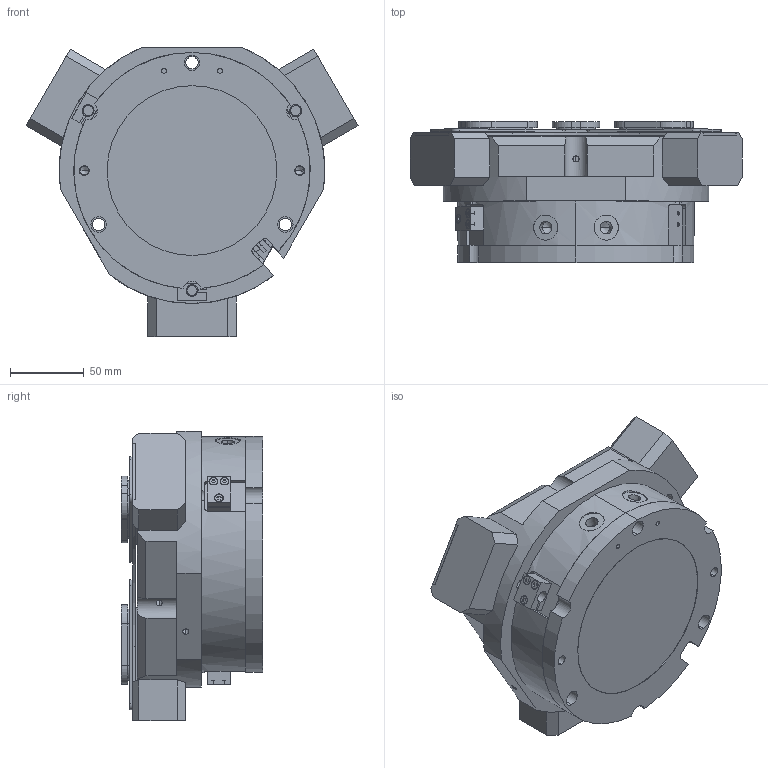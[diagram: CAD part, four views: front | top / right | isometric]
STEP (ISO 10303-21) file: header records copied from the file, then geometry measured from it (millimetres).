
FILE_DESCRIPTION (( 'STEP AP214' ), '1' );
FILE_NAME ('FCT 160A-1-SD.STEP', '2021-09-17T06:51:39', ( 'DEEP' ), ( 'Microsoft' ), 'SwSTEP 2.0', 'SolidWorks 2016', '' );
FILE_SCHEMA (( 'AUTOMOTIVE_DESIGN' ));
Length unit declared in the file: millimetre
Products named in the file (29): FCT 160A-1-005; FCT 160A-1 - SD-003; FCT 160A-1-003; FCT 160A-1-002; FCT 160A-1-001; FCT 160A-1-004; FCT 160A-1-SD; FCT 160A-1 - SD; FCT 160A-1 - SD-004; FCT 160A-1 - SD-002; FCT 160A-1 - SD-001
Assembly tree (19 placements, depth 3):
  FCT 160A-1-005
  FCT 160A-1 - SD-003
  FCT 160A-1-003
  FCT 160A-1-003
  FCT 160A-1-003
Bounding box: 224.86 x 95.5 x 196 mm (x, y, z)
Volume: 1499352.6 mm3; surface area: 299373.1 mm2
Topology: 18 solids, 18 shells, 732 faces, 1885 edges, 1208 vertices
Faces by surface type: plane 372, cylinder 276, cone 84
Entity records: 16808 total; most frequent: CARTESIAN_POINT 3344, DIRECTION 2733, ORIENTED_EDGE 2530, EDGE_CURVE 1265, AXIS2_PLACEMENT_3D 993, VERTEX_POINT 824, LINE 747, VECTOR 747
